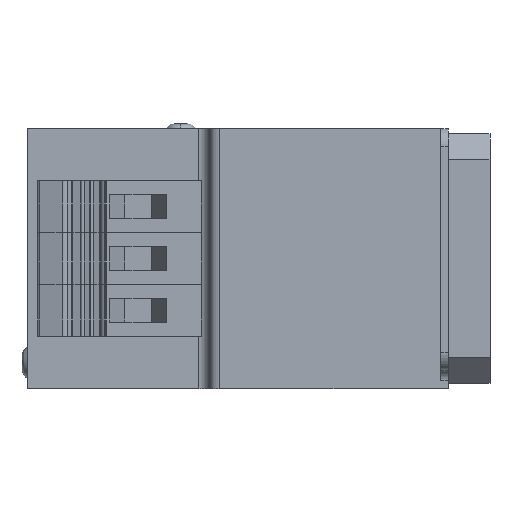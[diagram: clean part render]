
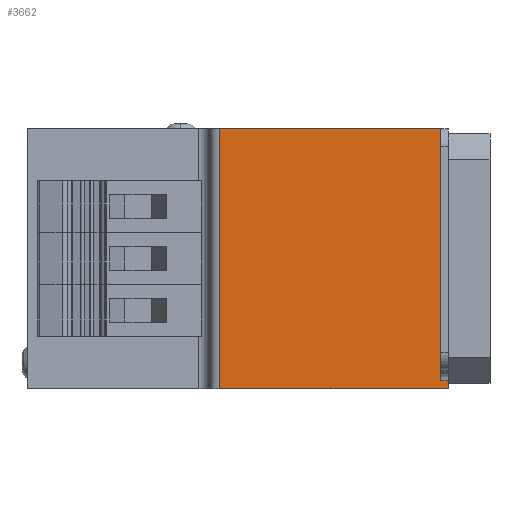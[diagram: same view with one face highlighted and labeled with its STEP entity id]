
A CAD part, left-side view. The second image highlights one B-rep face of the part: STEP entity #3662.
In plain terms, the highlighted planar face has unit normal (-1, 0, 0).
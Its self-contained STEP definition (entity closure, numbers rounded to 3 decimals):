
#76 = CARTESIAN_POINT ( 'NONE',  ( -65.5, 0., -23.5 ) ) ;
#96 = VECTOR ( 'NONE', #9729, 1000. ) ;
#195 = VERTEX_POINT ( 'NONE', #76 ) ;
#368 = DIRECTION ( 'NONE',  ( 0., 0., -1. ) ) ;
#393 = ORIENTED_EDGE ( 'NONE', *, *, #6150, .T. ) ;
#690 = DIRECTION ( 'NONE',  ( 0., 0., -1. ) ) ;
#1026 = EDGE_CURVE ( 'NONE', #1080, #10871, #4744, .T. ) ;
#1058 = VECTOR ( 'NONE', #2099, 1000. ) ;
#1080 = VERTEX_POINT ( 'NONE', #1129 ) ;
#1129 = CARTESIAN_POINT ( 'NONE',  ( -65.5, 44., 25. ) ) ;
#1179 = LINE ( 'NONE', #2887, #10854 ) ;
#1418 = ORIENTED_EDGE ( 'NONE', *, *, #1553, .F. ) ;
#1553 = EDGE_CURVE ( 'NONE', #4844, #10871, #5707, .T. ) ;
#1645 = VERTEX_POINT ( 'NONE', #6808 ) ;
#2037 = CARTESIAN_POINT ( 'NONE',  ( -65.5, 0., -25. ) ) ;
#2099 = DIRECTION ( 'NONE',  ( 0., 1., 0. ) ) ;
#2846 = VECTOR ( 'NONE', #8208, 1000. ) ;
#2887 = CARTESIAN_POINT ( 'NONE',  ( -65.5, 1.5, -23.5 ) ) ;
#3086 = ORIENTED_EDGE ( 'NONE', *, *, #7162, .T. ) ;
#3662 = ADVANCED_FACE ( 'NONE', ( #7454 ), #10724, .F. ) ;
#3732 = CARTESIAN_POINT ( 'NONE',  ( -65.5, 1.5, -23.5 ) ) ;
#3761 = LINE ( 'NONE', #4550, #8853 ) ;
#4473 = CARTESIAN_POINT ( 'NONE',  ( -65.5, 44., -25. ) ) ;
#4550 = CARTESIAN_POINT ( 'NONE',  ( -65.5, 0., -25. ) ) ;
#4552 = EDGE_CURVE ( 'NONE', #195, #4844, #3761, .T. ) ;
#4744 = LINE ( 'NONE', #9646, #9463 ) ;
#4745 = CARTESIAN_POINT ( 'NONE',  ( -65.5, 1.5, -25. ) ) ;
#4844 = VERTEX_POINT ( 'NONE', #2037 ) ;
#5261 = ORIENTED_EDGE ( 'NONE', *, *, #4552, .F. ) ;
#5396 = ORIENTED_EDGE ( 'NONE', *, *, #1026, .T. ) ;
#5412 = EDGE_LOOP ( 'NONE', ( #8850, #5396, #1418, #5261, #3086, #393 ) ) ;
#5476 = LINE ( 'NONE', #9669, #1058 ) ;
#5707 = LINE ( 'NONE', #5765, #96 ) ;
#5765 = CARTESIAN_POINT ( 'NONE',  ( -65.5, 1.5, -25. ) ) ;
#6023 = VERTEX_POINT ( 'NONE', #3732 ) ;
#6150 = EDGE_CURVE ( 'NONE', #6023, #1645, #10587, .T. ) ;
#6504 = DIRECTION ( 'NONE',  ( 1., 0., 0. ) ) ;
#6808 = CARTESIAN_POINT ( 'NONE',  ( -65.5, 1.5, 25. ) ) ;
#7162 = EDGE_CURVE ( 'NONE', #195, #6023, #1179, .T. ) ;
#7454 = FACE_OUTER_BOUND ( 'NONE', #5412, .T. ) ;
#8091 = DIRECTION ( 'NONE',  ( 0., 0., -1. ) ) ;
#8208 = DIRECTION ( 'NONE',  ( 0., 0., 1. ) ) ;
#8850 = ORIENTED_EDGE ( 'NONE', *, *, #8872, .T. ) ;
#8853 = VECTOR ( 'NONE', #368, 1000. ) ;
#8872 = EDGE_CURVE ( 'NONE', #1645, #1080, #5476, .T. ) ;
#9362 = AXIS2_PLACEMENT_3D ( 'NONE', #10835, #6504, #690 ) ;
#9463 = VECTOR ( 'NONE', #8091, 1000. ) ;
#9646 = CARTESIAN_POINT ( 'NONE',  ( -65.5, 44., -25. ) ) ;
#9669 = CARTESIAN_POINT ( 'NONE',  ( -65.5, 1.5, 25. ) ) ;
#9729 = DIRECTION ( 'NONE',  ( 0., 1., 0. ) ) ;
#9752 = DIRECTION ( 'NONE',  ( 0., 1., 0. ) ) ;
#10587 = LINE ( 'NONE', #4745, #2846 ) ;
#10724 = PLANE ( 'NONE',  #9362 ) ;
#10835 = CARTESIAN_POINT ( 'NONE',  ( -65.5, 1.5, -25. ) ) ;
#10854 = VECTOR ( 'NONE', #9752, 1000. ) ;
#10871 = VERTEX_POINT ( 'NONE', #4473 ) ;
